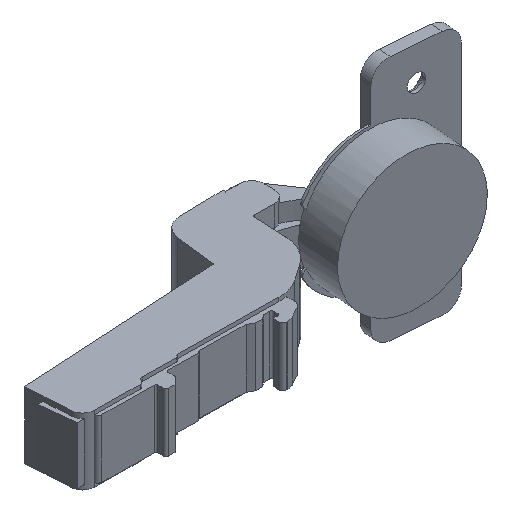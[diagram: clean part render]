
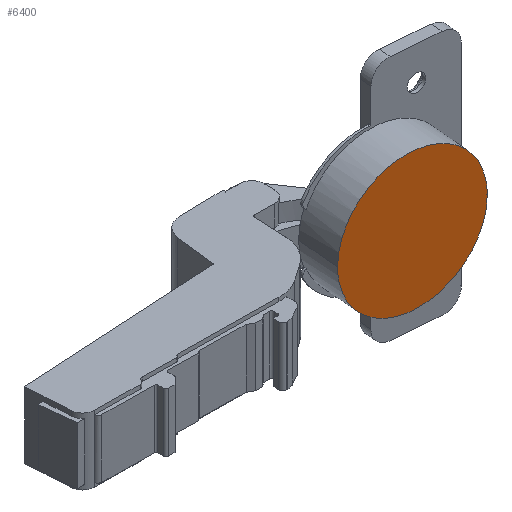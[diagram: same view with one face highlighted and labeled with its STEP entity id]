
A CAD part, isometric view. The second image highlights one B-rep face of the part: STEP entity #6400.
In plain terms, the highlighted planar face has unit normal (-0.088, -0.996, 0).
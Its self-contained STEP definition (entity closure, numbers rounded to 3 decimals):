
#27 = CARTESIAN_POINT ( 'NONE',  ( 70.998, 11.701, -13.109 ) ) ;
#125 = DIRECTION ( 'NONE',  ( 0., 0., -1. ) ) ;
#142 = CARTESIAN_POINT ( 'NONE',  ( 50.858, 13.486, -15.1 ) ) ;
#454 = CARTESIAN_POINT ( 'NONE',  ( 58.41, 12.817, 17.4 ) ) ;
#474 = CARTESIAN_POINT ( 'NONE',  ( 75.991, 11.259, 5.607 ) ) ;
#561 = CARTESIAN_POINT ( 'NONE',  ( 76.876, 11.181, -1.139 ) ) ;
#584 = CARTESIAN_POINT ( 'NONE',  ( 68.23, 11.947, -15.1 ) ) ;
#711 = CARTESIAN_POINT ( 'NONE',  ( 48.09, 13.731, -13.109 ) ) ;
#1012 = CARTESIAN_POINT ( 'NONE',  ( 61.813, 12.515, 17.288 ) ) ;
#1046 = CARTESIAN_POINT ( 'NONE',  ( 76.764, 11.19, 2.278 ) ) ;
#1150 = CARTESIAN_POINT ( 'NONE',  ( 65.129, 12.221, -16.511 ) ) ;
#1257 = CARTESIAN_POINT ( 'NONE',  ( 45.763, 13.937, -10.614 ) ) ;
#1378 = ORIENTED_EDGE ( 'NONE', *, *, #6707, .F. ) ;
#1565 = CARTESIAN_POINT ( 'NONE',  ( 65.129, 12.221, 16.511 ) ) ;
#1590 = CARTESIAN_POINT ( 'NONE',  ( 76.876, 11.181, 0. ) ) ;
#1646 = CARTESIAN_POINT ( 'NONE',  ( 42.766, 14.202, 4.512 ) ) ;
#1678 = CARTESIAN_POINT ( 'NONE',  ( 76.764, 11.19, -2.278 ) ) ;
#1787 = CARTESIAN_POINT ( 'NONE',  ( 61.813, 12.515, -17.288 ) ) ;
#1811 = CARTESIAN_POINT ( 'NONE',  ( 43.965, 14.096, -7.711 ) ) ;
#2045 = VERTEX_POINT ( 'NONE', #6874 ) ;
#2116 = CARTESIAN_POINT ( 'NONE',  ( 68.23, 11.947, 15.1 ) ) ;
#2201 = CARTESIAN_POINT ( 'NONE',  ( 43.965, 14.096, 7.711 ) ) ;
#2228 = CARTESIAN_POINT ( 'NONE',  ( 75.991, 11.259, -5.607 ) ) ;
#2349 = CARTESIAN_POINT ( 'NONE',  ( 58.41, 12.817, -17.4 ) ) ;
#2375 = CARTESIAN_POINT ( 'NONE',  ( 42.766, 14.202, -4.512 ) ) ;
#2676 = CARTESIAN_POINT ( 'NONE',  ( 70.998, 11.701, 13.109 ) ) ;
#2765 = CARTESIAN_POINT ( 'NONE',  ( 45.763, 13.937, 10.614 ) ) ;
#2795 = CARTESIAN_POINT ( 'NONE',  ( 74.585, 11.383, -8.72 ) ) ;
#2822 = FACE_OUTER_BOUND ( 'NONE', #3489, .T. ) ;
#2908 = CARTESIAN_POINT ( 'NONE',  ( 55.05, 13.114, -16.843 ) ) ;
#2930 = CARTESIAN_POINT ( 'NONE',  ( 42.212, 14.252, -1.139 ) ) ;
#3221 = CARTESIAN_POINT ( 'NONE',  ( 53.959, 13.211, 16.511 ) ) ;
#3246 = CARTESIAN_POINT ( 'NONE',  ( 73.325, 11.495, 10.614 ) ) ;
#3339 = CARTESIAN_POINT ( 'NONE',  ( 48.09, 13.731, 13.109 ) ) ;
#3368 = CARTESIAN_POINT ( 'NONE',  ( 72.602, 11.559, -11.498 ) ) ;
#3381 = EDGE_CURVE ( 'NONE', #2045, #5161, #3938, .T. ) ;
#3470 = DIRECTION ( 'NONE',  ( 0.088, 0.996, 0. ) ) ;
#3489 = EDGE_LOOP ( 'NONE', ( #1378, #4567 ) ) ;
#3493 = CARTESIAN_POINT ( 'NONE',  ( 51.863, 13.397, -15.64 ) ) ;
#3531 = CARTESIAN_POINT ( 'NONE',  ( 50.858, 13.486, 15.1 ) ) ;
#3801 = CARTESIAN_POINT ( 'NONE',  ( 57.275, 12.917, 17.288 ) ) ;
#3833 = CARTESIAN_POINT ( 'NONE',  ( 75.123, 11.336, 7.711 ) ) ;
#3894 = CARTESIAN_POINT ( 'NONE',  ( 42.212, 14.252, 1.139 ) ) ;
#3938 = B_SPLINE_CURVE_WITH_KNOTS ( 'NONE', 3,
 ( #6624, #3894, #5031, #1646, #5604, #2201, #6174, #2765, #6736, #3339, #7306, #3531, #6622, #3221, #7191, #3801, #454, #4388, #1012, #4952, #1565, #5516, #2116, #6086, #2676, #6650, #3246, #7226, #3833, #474, #4415, #1046, #4976, #1590 ),
 .UNSPECIFIED., .F., .F.,
 ( 4, 2, 2, 2, 2, 2, 2, 2, 2, 2, 2, 2, 2, 2, 2, 2, 4 ),
 ( 0., 0.062, 0.125, 0.187, 0.25, 0.312, 0.375, 0.437, 0.5, 0.562, 0.625, 0.687, 0.75, 0.813, 0.875, 0.938, 1. ),
 .UNSPECIFIED. ) ;
#3955 = CARTESIAN_POINT ( 'NONE',  ( 70.116, 11.779, -13.835 ) ) ;
#4072 = CARTESIAN_POINT ( 'NONE',  ( 48.972, 13.653, -13.835 ) ) ;
#4388 = CARTESIAN_POINT ( 'NONE',  ( 60.678, 12.616, 17.4 ) ) ;
#4415 = CARTESIAN_POINT ( 'NONE',  ( 76.322, 11.23, 4.512 ) ) ;
#4496 = CARTESIAN_POINT ( 'NONE',  ( 76.876, 11.181, 0. ) ) ;
#4519 = CARTESIAN_POINT ( 'NONE',  ( 67.225, 12.036, -15.64 ) ) ;
#4567 = ORIENTED_EDGE ( 'NONE', *, *, #3381, .F. ) ;
#4641 = CARTESIAN_POINT ( 'NONE',  ( 46.486, 13.873, -11.498 ) ) ;
#4952 = CARTESIAN_POINT ( 'NONE',  ( 64.038, 12.318, 16.843 ) ) ;
#4976 = CARTESIAN_POINT ( 'NONE',  ( 76.876, 11.181, 1.139 ) ) ;
#5031 = CARTESIAN_POINT ( 'NONE',  ( 42.324, 14.242, 2.278 ) ) ;
#5086 = CARTESIAN_POINT ( 'NONE',  ( 64.038, 12.318, -16.843 ) ) ;
#5161 = VERTEX_POINT ( 'NONE', #7214 ) ;
#5163 = PLANE ( 'NONE',  #7062 ) ;
#5211 = CARTESIAN_POINT ( 'NONE',  ( 44.503, 14.049, -8.72 ) ) ;
#5516 = CARTESIAN_POINT ( 'NONE',  ( 67.225, 12.036, 15.64 ) ) ;
#5604 = CARTESIAN_POINT ( 'NONE',  ( 43.097, 14.173, 5.607 ) ) ;
#5635 = CARTESIAN_POINT ( 'NONE',  ( 76.322, 11.23, -4.512 ) ) ;
#5753 = CARTESIAN_POINT ( 'NONE',  ( 60.678, 12.616, -17.4 ) ) ;
#5775 = CARTESIAN_POINT ( 'NONE',  ( 43.097, 14.173, -5.607 ) ) ;
#6086 = CARTESIAN_POINT ( 'NONE',  ( 70.116, 11.779, 13.835 ) ) ;
#6174 = CARTESIAN_POINT ( 'NONE',  ( 44.503, 14.049, 8.72 ) ) ;
#6201 = CARTESIAN_POINT ( 'NONE',  ( 75.123, 11.336, -7.711 ) ) ;
#6234 = B_SPLINE_CURVE_WITH_KNOTS ( 'NONE', 3,
 ( #4496, #561, #1678, #5635, #2228, #6201, #2795, #6766, #3368, #27, #3955, #584, #4519, #1150, #5086, #1787, #5753, #2349, #6318, #2908, #6889, #3493, #142, #4072, #711, #4641, #1257, #5211, #1811, #5775, #2375, #6348, #2930, #6908 ),
 .UNSPECIFIED., .F., .F.,
 ( 4, 2, 2, 2, 2, 2, 2, 2, 2, 2, 2, 2, 2, 2, 2, 2, 4 ),
 ( 0., 0.063, 0.125, 0.188, 0.25, 0.313, 0.375, 0.438, 0.5, 0.563, 0.625, 0.688, 0.75, 0.813, 0.875, 0.938, 1. ),
 .UNSPECIFIED. ) ;
#6318 = CARTESIAN_POINT ( 'NONE',  ( 57.275, 12.917, -17.288 ) ) ;
#6348 = CARTESIAN_POINT ( 'NONE',  ( 42.324, 14.242, -2.278 ) ) ;
#6400 = ADVANCED_FACE ( 'NONE', ( #2822 ), #5163, .F. ) ;
#6622 = CARTESIAN_POINT ( 'NONE',  ( 51.863, 13.397, 15.64 ) ) ;
#6624 = CARTESIAN_POINT ( 'NONE',  ( 42.212, 14.252, 0. ) ) ;
#6650 = CARTESIAN_POINT ( 'NONE',  ( 72.602, 11.559, 11.498 ) ) ;
#6707 = EDGE_CURVE ( 'NONE', #5161, #2045, #6234, .T. ) ;
#6736 = CARTESIAN_POINT ( 'NONE',  ( 46.486, 13.873, 11.498 ) ) ;
#6766 = CARTESIAN_POINT ( 'NONE',  ( 73.325, 11.495, -10.614 ) ) ;
#6868 = CARTESIAN_POINT ( 'NONE',  ( 71.796, 11.631, -5.564 ) ) ;
#6874 = CARTESIAN_POINT ( 'NONE',  ( 42.212, 14.252, 0. ) ) ;
#6889 = CARTESIAN_POINT ( 'NONE',  ( 53.959, 13.211, -16.511 ) ) ;
#6908 = CARTESIAN_POINT ( 'NONE',  ( 42.212, 14.252, 0. ) ) ;
#7062 = AXIS2_PLACEMENT_3D ( 'NONE', #6868, #3470, #125 ) ;
#7191 = CARTESIAN_POINT ( 'NONE',  ( 55.05, 13.114, 16.843 ) ) ;
#7214 = CARTESIAN_POINT ( 'NONE',  ( 76.876, 11.181, 0. ) ) ;
#7226 = CARTESIAN_POINT ( 'NONE',  ( 74.585, 11.383, 8.72 ) ) ;
#7306 = CARTESIAN_POINT ( 'NONE',  ( 48.972, 13.653, 13.835 ) ) ;
